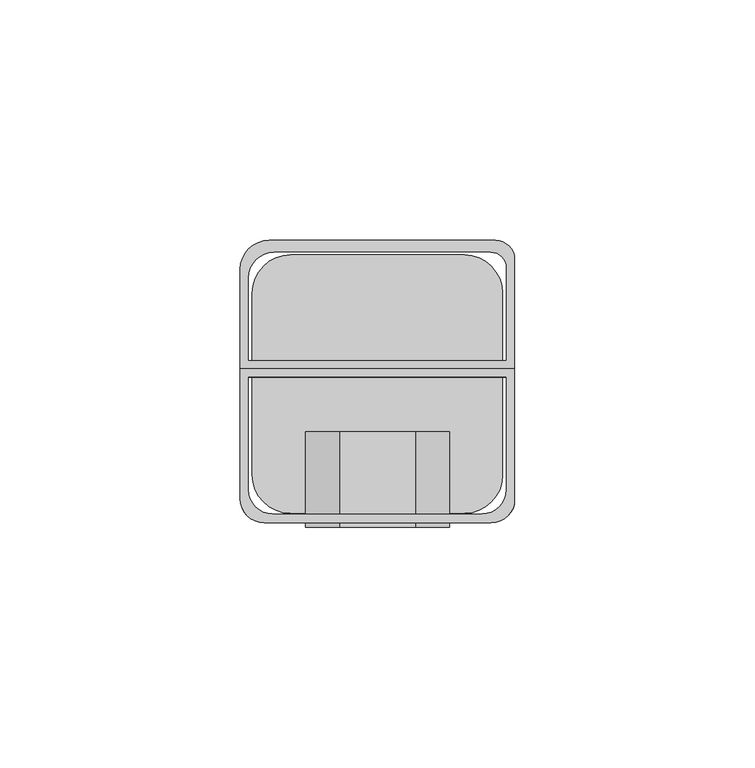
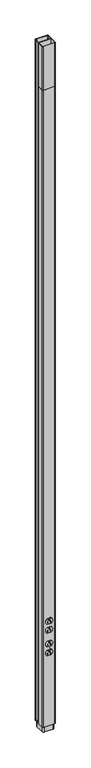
"""IFC4 building model written with IfcOpenShell, lengths in millimetres: proxy geometry, Tele-Power_Poles-Wiremold-Aluminum_Tele-Power_Pole : AMDTP-4 - Aluminum."""

from ifc_helpers import new_model, si_unit, point, frame, frame_2d, origin, origin_with_axes, place, context, project, spatial, polyline, circle_curve, trimmed, segment, composite_curve, outline, extrude, source, transform, mapped, element, save


def electrical_fixtures_3d823aef(model_context):
    return source(origin(), model_context, "Body", "SweptSolid", [
        extrude(outline(composite_curve([segment(trimmed(circle_curve(frame_2d((383.1489583, -1.066293)), 13.933707), [point((395.2960251, -7.8924893))], [point((383.1489583, -15.0))], False, "CARTESIAN"), True, "CONTINUOUS"), segment(polyline([(383.1489583, -15.0), (381.2314332, -15.0)]), True, "CONTINUOUS"), segment(trimmed(circle_curve(frame_2d((381.2314332, -0.8980964)), 14.1019036), [point((381.2314332, -15.0))], [point((369.2960251, -8.4087368))], False, "CARTESIAN"), True, "CONTINUOUS"), segment(polyline([(369.2960251, -8.4087368), (369.2960251, 8.5219574)]), True, "CONTINUOUS"), segment(trimmed(circle_curve(frame_2d((381.1036564, 1.0)), 14.0), [point((369.2960251, 8.5219574))], [point((381.1036564, 15.0))], False, "CARTESIAN"), True, "CONTINUOUS"), segment(polyline([(381.1036564, 15.0), (383.1911595, 15.0)]), True, "CONTINUOUS"), segment(trimmed(circle_curve(frame_2d((383.1911595, 1.0137234)), 13.9862766), [point((383.1911595, 15.0))], [point((395.2960251, 8.0200178))], False, "CARTESIAN"), True, "CONTINUOUS"), segment(polyline([(395.2960251, 8.0200178), (395.2960251, -7.8924893)]), True, "CONTINUOUS")], self_intersect=False), holes=[polyline([(381.4352273, -5.4971077), (373.4977273, -5.4971077), (373.4977273, -7.0864631), (381.4352273, -7.0864631), (381.4352273, -5.4971077)]), polyline([(374.2914773, 5.3273064), (380.6414773, 5.3273064), (380.6414773, 6.9135369), (374.2914773, 6.9135369), (374.2914773, 5.3273064)]), composite_curve([segment(polyline([(391.8789773, 2.2744253), (388.7039773, 2.2744253)]), True, "CONTINUOUS"), segment(trimmed(circle_curve(frame_2d((388.7039773, -0.1068247)), 2.38125), [point((388.7039773, 2.2744253))], [point((388.7039773, -2.4880747))], True, "CARTESIAN"), True, "CONTINUOUS"), segment(polyline([(388.7039773, -2.4880747), (391.8789773, -2.4880747), (391.8789773, 2.2744253)]), True, "CONTINUOUS")], self_intersect=False)]), frame((0.0, -29.86875, 0.0), z_axis=(0.0, 1.0, 0.0), x_axis=(0.0, 0.0, 1.0)), (0.0, 0.0, 1.0), 19.8625),
        extrude(outline(composite_curve([segment(polyline([(353.4960251, 8.7277208), (353.4960251, -8.6182874)]), True, "CONTINUOUS"), segment(trimmed(circle_curve(frame_2d((341.791413, -1.0755089)), 13.9244911), [point((353.4960251, -8.6182874))], [point((341.791413, -15.0))], False, "CARTESIAN"), True, "CONTINUOUS"), segment(polyline([(341.791413, -15.0), (339.8667378, -15.0)]), True, "CONTINUOUS"), segment(trimmed(circle_curve(frame_2d((339.8667378, -0.8892045)), 14.1107955), [point((339.8667378, -15.0))], [point((327.4960251, -7.6774309))], False, "CARTESIAN"), True, "CONTINUOUS"), segment(polyline([(327.4960251, -7.6774309), (327.4960251, 7.7995466)]), True, "CONTINUOUS"), segment(trimmed(circle_curve(frame_2d((339.7391341, 0.9911428)), 14.0088572), [point((327.4960251, 7.7995466))], [point((339.7391341, 15.0))], False, "CARTESIAN"), True, "CONTINUOUS"), segment(polyline([(339.7391341, 15.0), (341.8335943, 15.0)]), True, "CONTINUOUS"), segment(trimmed(circle_curve(frame_2d((341.8335943, 1.0215264)), 13.9784736), [point((341.8335943, 15.0))], [point((353.4960251, 8.7277208))], False, "CARTESIAN"), True, "CONTINUOUS")], self_intersect=False), holes=[polyline([(340.0352273, -5.6609185), (332.0977273, -5.6609185), (332.0977273, -7.2502739), (340.0352273, -7.2502739), (340.0352273, -5.6609185)]), polyline([(332.8914773, 5.3273064), (339.2414773, 5.3273064), (339.2414773, 6.9135369), (332.8914773, 6.9135369), (332.8914773, 5.3273064)]), composite_curve([segment(polyline([(350.4789773, 2.2744253), (347.3039773, 2.2744253)]), True, "CONTINUOUS"), segment(trimmed(circle_curve(frame_2d((347.3039773, -0.1068247)), 2.38125), [point((347.3039773, 2.2744253))], [point((347.3039773, -2.4880747))], True, "CARTESIAN"), True, "CONTINUOUS"), segment(polyline([(347.3039773, -2.4880747), (350.4789773, -2.4880747), (350.4789773, 2.2744253)]), True, "CONTINUOUS")], self_intersect=False)]), frame((0.0, -29.86875, 0.0), z_axis=(0.0, 1.0, 0.0), x_axis=(0.0, 0.0, 1.0)), (0.0, 0.0, 1.0), 19.8625),
        extrude(outline(composite_curve([segment(polyline([(28.575, 2.63125), (28.575, -25.36875)]), True, "CONTINUOUS"), segment(trimmed(circle_curve(frame_2d((23.6760205, -24.36875)), 5.0), [point((28.575, -25.36875))], [point((23.6760205, -29.36875))], False, "CARTESIAN"), True, "CONTINUOUS"), segment(polyline([(23.6760205, -29.36875), (-23.575, -29.36875)]), True, "CONTINUOUS"), segment(trimmed(circle_curve(frame_2d((-23.575, -24.36875)), 5.0), [point((-23.575, -29.36875))], [point((-28.575, -24.36875))], False, "CARTESIAN"), True, "CONTINUOUS"), segment(polyline([(-28.575, -24.36875), (-28.575, 2.63125), (28.575, 2.63125)]), True, "CONTINUOUS")], self_intersect=False), holes=[composite_curve([segment(polyline([(-26.775, 0.83125), (-26.775, -22.56875)]), True, "CONTINUOUS"), segment(trimmed(circle_curve(frame_2d((-21.775, -22.56875)), 5.0), [point((-26.775, -22.56875))], [point((-21.775, -27.56875))], True, "CARTESIAN"), True, "CONTINUOUS"), segment(polyline([(-21.775, -27.56875), (21.775, -27.56875)]), True, "CONTINUOUS"), segment(trimmed(circle_curve(frame_2d((21.775, -22.56875)), 5.0), [point((21.775, -27.56875))], [point((26.775, -22.56875))], True, "CARTESIAN"), True, "CONTINUOUS"), segment(polyline([(26.775, -22.56875), (26.775, 0.83125), (-26.775, 0.83125)]), True, "CONTINUOUS")], self_intersect=False)]), frame((0.0, 0.0, 2971.8), z_axis=(0.0, 0.0, 1.0), x_axis=(1.0, 0.0, 0.0)), (0.0, 0.0, 1.0), 203.2),
        extrude(outline(composite_curve([segment(polyline([(28.575, 2.63125), (28.575, -25.36875)]), True, "CONTINUOUS"), segment(trimmed(circle_curve(frame_2d((23.6760205, -24.36875)), 5.0), [point((28.575, -25.36875))], [point((23.6760205, -29.36875))], False, "CARTESIAN"), True, "CONTINUOUS"), segment(polyline([(23.6760205, -29.36875), (-23.575, -29.36875)]), True, "CONTINUOUS"), segment(trimmed(circle_curve(frame_2d((-23.575, -24.36875)), 5.0), [point((-23.575, -29.36875))], [point((-28.575, -24.36875))], False, "CARTESIAN"), True, "CONTINUOUS"), segment(polyline([(-28.575, -24.36875), (-28.575, 2.63125), (28.575, 2.63125)]), True, "CONTINUOUS")], self_intersect=False), holes=[composite_curve([segment(polyline([(-26.775, 0.83125), (-26.775, -22.56875)]), True, "CONTINUOUS"), segment(trimmed(circle_curve(frame_2d((-21.775, -22.56875)), 5.0), [point((-26.775, -22.56875))], [point((-21.775, -27.56875))], True, "CARTESIAN"), True, "CONTINUOUS"), segment(polyline([(-21.775, -27.56875), (21.775, -27.56875)]), True, "CONTINUOUS"), segment(trimmed(circle_curve(frame_2d((21.775, -22.56875)), 5.0), [point((21.775, -27.56875))], [point((26.775, -22.56875))], True, "CARTESIAN"), True, "CONTINUOUS"), segment(polyline([(26.775, -22.56875), (26.775, 0.83125), (-26.775, 0.83125)]), True, "CONTINUOUS")], self_intersect=False)]), origin_with_axes(), (0.0, 0.0, 1.0), 2971.8),
        extrude(outline(composite_curve([segment(trimmed(circle_curve(frame_2d((488.7029331, -1.066293)), 13.933707), [point((500.85, -7.8924893))], [point((488.7029331, -15.0))], False, "CARTESIAN"), True, "CONTINUOUS"), segment(polyline([(488.7029331, -15.0), (486.7854081, -15.0)]), True, "CONTINUOUS"), segment(trimmed(circle_curve(frame_2d((486.7854081, -0.8980964)), 14.1019036), [point((486.7854081, -15.0))], [point((474.85, -8.4087368))], False, "CARTESIAN"), True, "CONTINUOUS"), segment(polyline([(474.85, -8.4087368), (474.85, 8.5219574)]), True, "CONTINUOUS"), segment(trimmed(circle_curve(frame_2d((486.6576313, 1.0)), 14.0), [point((474.85, 8.5219574))], [point((486.6576313, 15.0))], False, "CARTESIAN"), True, "CONTINUOUS"), segment(polyline([(486.6576313, 15.0), (488.7451343, 15.0)]), True, "CONTINUOUS"), segment(trimmed(circle_curve(frame_2d((488.7451343, 1.0137234)), 13.9862766), [point((488.7451343, 15.0))], [point((500.85, 8.0200178))], False, "CARTESIAN"), True, "CONTINUOUS"), segment(polyline([(500.85, 8.0200178), (500.85, -7.8924893)]), True, "CONTINUOUS")], self_intersect=False), holes=[polyline([(486.9892021, -5.4971077), (479.0517021, -5.4971077), (479.0517021, -7.0864631), (486.9892021, -7.0864631), (486.9892021, -5.4971077)]), polyline([(479.8454521, 5.3273064), (486.1954521, 5.3273064), (486.1954521, 6.9135369), (479.8454521, 6.9135369), (479.8454521, 5.3273064)]), composite_curve([segment(polyline([(497.4329521, 2.2744253), (494.2579521, 2.2744253)]), True, "CONTINUOUS"), segment(trimmed(circle_curve(frame_2d((494.2579521, -0.1068247)), 2.38125), [point((494.2579521, 2.2744253))], [point((494.2579521, -2.4880747))], True, "CARTESIAN"), True, "CONTINUOUS"), segment(polyline([(494.2579521, -2.4880747), (497.4329521, -2.4880747), (497.4329521, 2.2744253)]), True, "CONTINUOUS")], self_intersect=False)]), frame((0.0, -29.86875, 0.0), z_axis=(0.0, 1.0, 0.0), x_axis=(0.0, 0.0, 1.0)), (0.0, 0.0, 1.0), 19.8625),
        extrude(outline(composite_curve([segment(polyline([(459.05, 8.7277208), (459.05, -8.6182874)]), True, "CONTINUOUS"), segment(trimmed(circle_curve(frame_2d((447.3453879, -1.0755089)), 13.9244911), [point((459.05, -8.6182874))], [point((447.3453879, -15.0))], False, "CARTESIAN"), True, "CONTINUOUS"), segment(polyline([(447.3453879, -15.0), (445.4207127, -15.0)]), True, "CONTINUOUS"), segment(trimmed(circle_curve(frame_2d((445.4207127, -0.8892045)), 14.1107955), [point((445.4207127, -15.0))], [point((433.05, -7.6774309))], False, "CARTESIAN"), True, "CONTINUOUS"), segment(polyline([(433.05, -7.6774309), (433.05, 7.7995466)]), True, "CONTINUOUS"), segment(trimmed(circle_curve(frame_2d((445.293109, 0.9911428)), 14.0088572), [point((433.05, 7.7995466))], [point((445.293109, 15.0))], False, "CARTESIAN"), True, "CONTINUOUS"), segment(polyline([(445.293109, 15.0), (447.3875692, 15.0)]), True, "CONTINUOUS"), segment(trimmed(circle_curve(frame_2d((447.3875692, 1.0215264)), 13.9784736), [point((447.3875692, 15.0))], [point((459.05, 8.7277208))], False, "CARTESIAN"), True, "CONTINUOUS")], self_intersect=False), holes=[polyline([(445.5892021, -5.6609185), (437.6517021, -5.6609185), (437.6517021, -7.2502739), (445.5892021, -7.2502739), (445.5892021, -5.6609185)]), polyline([(438.4454521, 5.3273064), (444.7954521, 5.3273064), (444.7954521, 6.9135369), (438.4454521, 6.9135369), (438.4454521, 5.3273064)]), composite_curve([segment(polyline([(456.0329521, 2.2744253), (452.8579521, 2.2744253)]), True, "CONTINUOUS"), segment(trimmed(circle_curve(frame_2d((452.8579521, -0.1068247)), 2.38125), [point((452.8579521, 2.2744253))], [point((452.8579521, -2.4880747))], True, "CARTESIAN"), True, "CONTINUOUS"), segment(polyline([(452.8579521, -2.4880747), (456.0329521, -2.4880747), (456.0329521, 2.2744253)]), True, "CONTINUOUS")], self_intersect=False)]), frame((0.0, -29.86875, 0.0), z_axis=(0.0, 1.0, 0.0), x_axis=(0.0, 0.0, 1.0)), (0.0, 0.0, 1.0), 19.8625),
        extrude(outline(composite_curve([segment(trimmed(circle_curve(frame_2d((18.075, 18.86875)), 8.0), [point((18.075, 26.86875))], [point((26.075, 18.86875))], False, "CARTESIAN"), True, "CONTINUOUS"), segment(polyline([(26.075, 18.86875), (26.075, -18.86875)]), True, "CONTINUOUS"), segment(trimmed(circle_curve(frame_2d((18.075, -18.86875)), 8.0), [point((26.075, -18.86875))], [point((18.075, -26.86875))], False, "CARTESIAN"), True, "CONTINUOUS"), segment(polyline([(18.075, -26.86875), (-18.075, -26.86875)]), True, "CONTINUOUS"), segment(trimmed(circle_curve(frame_2d((-18.075, -18.86875)), 8.0), [point((-18.075, -26.86875))], [point((-26.075, -18.86875))], False, "CARTESIAN"), True, "CONTINUOUS"), segment(polyline([(-26.075, -18.86875), (-26.075, 18.86875)]), True, "CONTINUOUS"), segment(trimmed(circle_curve(frame_2d((-18.075, 18.86875)), 8.0), [point((-26.075, 18.86875))], [point((-18.075, 26.86875))], False, "CARTESIAN"), True, "CONTINUOUS"), segment(polyline([(-18.075, 26.86875), (18.075, 26.86875)]), True, "CONTINUOUS")], self_intersect=False)), frame((0.0, 0.0, -25.4), z_axis=(0.0, 0.0, 1.0), x_axis=(1.0, 0.0, 0.0)), (0.0, 0.0, 1.0), 25.4),
        extrude(outline(composite_curve([segment(trimmed(circle_curve(frame_2d((24.575, 25.36875)), 4.0), [point((24.575, 29.36875))], [point((28.575, 25.36875))], False, "CARTESIAN"), True, "CONTINUOUS"), segment(polyline([(28.575, 25.36875), (28.575, 2.63125), (-28.575, 2.63125), (-28.575, 23.31875)]), True, "CONTINUOUS"), segment(trimmed(circle_curve(frame_2d((-22.525, 23.31875)), 6.05), [point((-28.575, 23.31875))], [point((-22.525, 29.36875))], False, "CARTESIAN"), True, "CONTINUOUS"), segment(polyline([(-22.525, 29.36875), (24.575, 29.36875)]), True, "CONTINUOUS")], self_intersect=False), holes=[composite_curve([segment(polyline([(26.775, 4.43125), (26.775, 23.66875)]), True, "CONTINUOUS"), segment(trimmed(circle_curve(frame_2d((23.575, 23.66875)), 3.2), [point((26.775, 23.66875))], [point((23.575, 26.86875))], True, "CARTESIAN"), True, "CONTINUOUS"), segment(polyline([(23.575, 26.86875), (-21.525, 26.86875)]), True, "CONTINUOUS"), segment(trimmed(circle_curve(frame_2d((-21.525, 21.61875)), 5.25), [point((-21.525, 26.86875))], [point((-26.775, 21.61875))], True, "CARTESIAN"), True, "CONTINUOUS"), segment(polyline([(-26.775, 21.61875), (-26.775, 4.43125), (26.775, 4.43125)]), True, "CONTINUOUS")], self_intersect=False)]), origin_with_axes(), (0.0, 0.0, 1.0), 3175.0),
    ])


if __name__ == "__main__":
    model = new_model("IFC4")
    model_context = context("Model", 3, world=origin())
    ifc_project = project(units=[si_unit("LENGTHUNIT", "METRE", prefix="MILLI")], contexts=[model_context])
    site = spatial("IfcSite", under=ifc_project)
    building = spatial("IfcBuilding", under=site)
    placement = place(None, origin())
    electrical_fixtures_shape = electrical_fixtures_3d823aef(model_context)
    element("IfcBuildingElementProxy", 1, Name="Tele-Power_Poles-Wiremold-Aluminum_Tele-Power_Pole : AMDTP-4 - Aluminum", ObjectType="Tele-Power_Poles-Wiremold-Aluminum_Tele-Power_Pole : AMDTP-4 - Aluminum", at=placement, inside=building, context=model_context, shape_type="MappedRepresentation", body=[
        mapped(electrical_fixtures_shape, transform((0.0, 0.0, 0.0), x_axis=(1.0, 0.0, 0.0), y_axis=(0.0, 1.0, 0.0), z_axis=(0.0, 0.0, 1.0))),
    ])
    save(model, "model.ifc")
